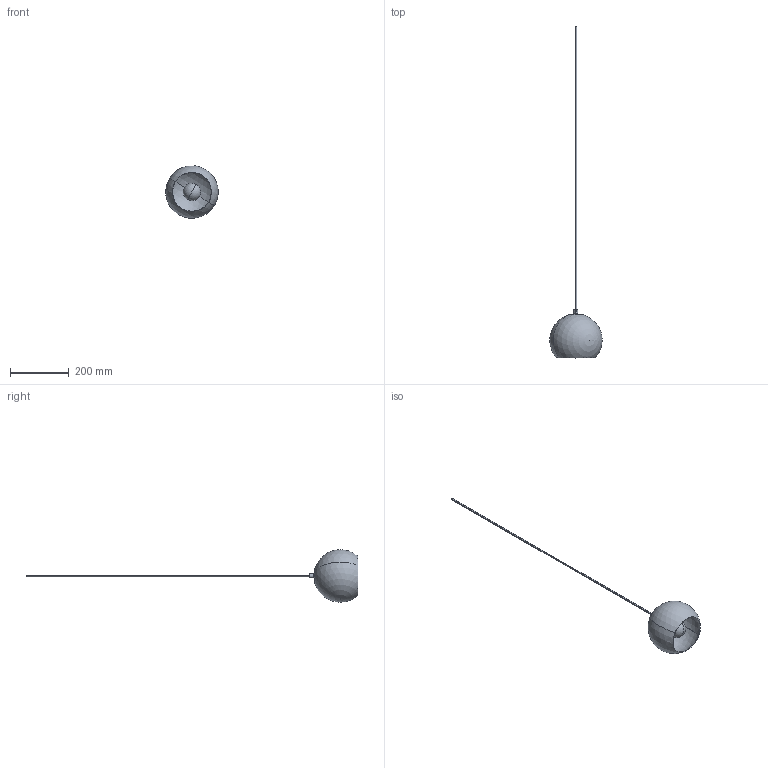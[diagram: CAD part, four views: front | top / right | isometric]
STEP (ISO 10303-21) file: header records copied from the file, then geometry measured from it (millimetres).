
FILE_DESCRIPTION (( 'STEP AP214' ), '1' );
FILE_NAME ('BALL pendant Ø18.STEP', '2020-02-18T14:03:46', ( 'Frandsen Group Administrator' ), ( 'Frandsen Group' ), 'SwSTEP 2.0', 'SolidWorks 2019', '' );
FILE_SCHEMA (( 'AUTOMOTIVE_DESIGN' ));
Length unit declared in the file: millimetre
Products named in the file (13): 1115 BALL strain relief; BALL pendant Ø18; 70042 E27 Socket outer shell, black; 38005 Cable protector E27 kl.2 transparent; E27 Socket+wire+bulb; 1115 BALL cable protector; 70108 E27 socket bottom, black, EU and AU; E27 Socket, black, plain 70042, 70108, 70106, 38005; 1115 BALL skærm Ø180; 381137 Set screw M5x5 flat point, elzinc blue BN28 ISO4026 DIN913; E27 GLOBE lille Ø60mm; 70106 E27 socket insert, black, EU and AU; (70128) Black cable, 1 m
Assembly tree (12 placements, depth 4):
  BALL pendant Ø18
    E27 Socket+wire+bulb
      E27 GLOBE lille Ø60mm
      E27 Socket, black, plain 70042, 70108, 70106, 38005
        70042 E27 Socket outer shell, black
        70108 E27 socket bottom, black, EU and AU
        70106 E27 socket insert, black, EU and AU
        38005 Cable protector E27 kl.2 transparent
      (70128) Black cable, 1 m
    1115 BALL skærm Ø180
    1115 BALL strain relief
    1115 BALL cable protector
    381137 Set screw M5x5 flat point, elzinc blue BN28 ISO4026 DIN913
Bounding box: 179.51 x 1134.55 x 179.51 mm (x, y, z)
Volume: 150099.6 mm3; surface area: 238953.5 mm2
Topology: 13 solids, 13 shells, 187 faces, 453 edges, 285 vertices
Faces by surface type: cylinder 85, plane 42, torus 24, cone 20, sphere 14, bspline 2
Entity records: 10278 total; most frequent: CARTESIAN_POINT 5350, DIRECTION 991, ORIENTED_EDGE 850, AXIS2_PLACEMENT_3D 430, EDGE_CURVE 425, VERTEX_POINT 269, EDGE_LOOP 232, CIRCLE 228
